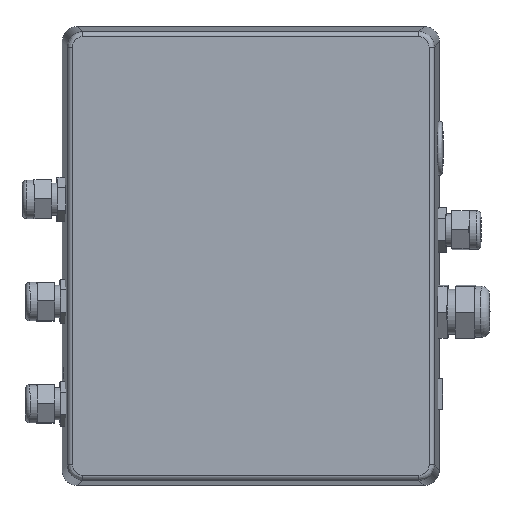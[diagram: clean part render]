
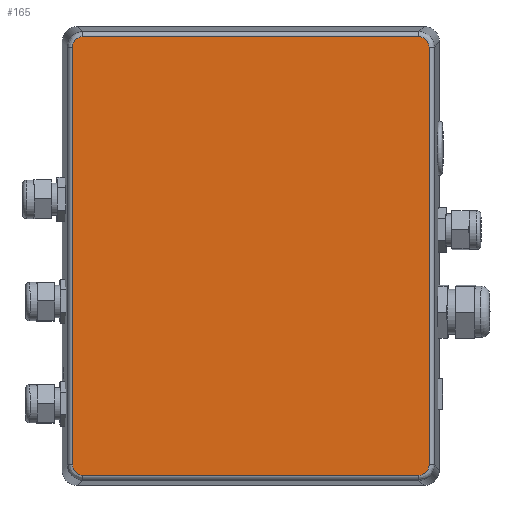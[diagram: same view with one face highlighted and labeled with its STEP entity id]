
A CAD part, front view. The second image highlights one B-rep face of the part: STEP entity #165.
In plain terms, the highlighted planar face has unit normal (0, -1, 0).
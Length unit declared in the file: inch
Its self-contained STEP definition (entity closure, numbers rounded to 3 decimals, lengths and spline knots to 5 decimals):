
#76=CARTESIAN_POINT('',(-3.28169,-9.46272,1.14184));
#77=DIRECTION('',(0.0,1.0,0.0));
#78=DIRECTION('',(0.,0.0,-1.));
#79=AXIS2_PLACEMENT_3D('',#76,#77,#78);
#80=PLANE('',#79);
#81=CARTESIAN_POINT('',(1.08101,-9.46272,6.25445));
#82=VERTEX_POINT('',#81);
#83=CARTESIAN_POINT('',(1.08081,-9.46272,-3.97093));
#84=VERTEX_POINT('',#83);
#85=CARTESIAN_POINT('',(1.08101,-9.46272,6.25445));
#86=DIRECTION('',(0.,0.0,-1.));
#87=VECTOR('',#86,10.22538);
#88=LINE('',#85,#87);
#89=EDGE_CURVE('',#82,#84,#88,.T.);
#90=ORIENTED_EDGE('',*,*,#89,.F.);
#91=CARTESIAN_POINT('',(0.8311,-9.46272,6.50437));
#92=VERTEX_POINT('',#91);
#93=CARTESIAN_POINT('',(1.08101,-9.46272,6.25445));
#94=CARTESIAN_POINT('',(1.08101,-9.46272,6.29184));
#95=CARTESIAN_POINT('',(1.06396,-9.46272,6.36661));
#96=CARTESIAN_POINT('',(0.99226,-9.46272,6.45654));
#97=CARTESIAN_POINT('',(0.9059,-9.46272,6.49811));
#98=CARTESIAN_POINT('',(0.8498,-9.46272,6.50437));
#99=CARTESIAN_POINT('',(0.8311,-9.46272,6.50437));
#100=B_SPLINE_CURVE_WITH_KNOTS('',3,(#93,#94,#95,#96,#97,#98,#99),.UNSPECIFIED.,.F.,.U.,(4,1,1,1,4),(0.0,0.28571,0.57143,0.85714,1.0),.UNSPECIFIED.);
#101=EDGE_CURVE('',#82,#92,#100,.T.);
#102=ORIENTED_EDGE('',*,*,#101,.T.);
#103=CARTESIAN_POINT('',(-7.39428,-9.46272,6.50452));
#104=VERTEX_POINT('',#103);
#105=CARTESIAN_POINT('',(-7.39428,-9.46272,6.50452));
#106=DIRECTION('',(1.,0.0,0.));
#107=VECTOR('',#106,8.22538);
#108=LINE('',#105,#107);
#109=EDGE_CURVE('',#104,#92,#108,.T.);
#110=ORIENTED_EDGE('',*,*,#109,.F.);
#111=CARTESIAN_POINT('',(-7.6442,-9.46272,6.25461));
#112=VERTEX_POINT('',#111);
#113=CARTESIAN_POINT('',(-7.39428,-9.46272,6.50452));
#114=CARTESIAN_POINT('',(-7.43168,-9.46272,6.50452));
#115=CARTESIAN_POINT('',(-7.50645,-9.46272,6.48748));
#116=CARTESIAN_POINT('',(-7.58136,-9.46272,6.42771));
#117=CARTESIAN_POINT('',(-7.62135,-9.46272,6.36397));
#118=CARTESIAN_POINT('',(-7.64,-9.46272,6.31071));
#119=CARTESIAN_POINT('',(-7.6442,-9.46272,6.27331));
#120=CARTESIAN_POINT('',(-7.6442,-9.46272,6.25461));
#121=B_SPLINE_CURVE_WITH_KNOTS('',3,(#113,#114,#115,#116,#117,#118,#119,#120),.UNSPECIFIED.,.F.,.U.,(4,1,1,1,1,4),(0.0,0.28571,0.57143,0.71429,0.85714,1.0),.UNSPECIFIED.);
#122=EDGE_CURVE('',#104,#112,#121,.T.);
#123=ORIENTED_EDGE('',*,*,#122,.T.);
#124=CARTESIAN_POINT('',(-7.6444,-9.46272,-3.97077));
#125=VERTEX_POINT('',#124);
#126=CARTESIAN_POINT('',(-7.6444,-9.46272,-3.97077));
#127=DIRECTION('',(0.,0.0,1.));
#128=VECTOR('',#127,10.22538);
#129=LINE('',#126,#128);
#130=EDGE_CURVE('',#125,#112,#129,.T.);
#131=ORIENTED_EDGE('',*,*,#130,.F.);
#132=CARTESIAN_POINT('',(-7.39449,-9.46272,-4.22069));
#133=VERTEX_POINT('',#132);
#134=CARTESIAN_POINT('',(-7.6444,-9.46272,-3.97077));
#135=CARTESIAN_POINT('',(-7.6444,-9.46272,-4.00816));
#136=CARTESIAN_POINT('',(-7.62735,-9.46272,-4.08293));
#137=CARTESIAN_POINT('',(-7.55564,-9.46272,-4.17286));
#138=CARTESIAN_POINT('',(-7.46929,-9.46272,-4.21443));
#139=CARTESIAN_POINT('',(-7.41318,-9.46272,-4.22069));
#140=CARTESIAN_POINT('',(-7.39449,-9.46272,-4.22069));
#141=B_SPLINE_CURVE_WITH_KNOTS('',3,(#134,#135,#136,#137,#138,#139,#140),.UNSPECIFIED.,.F.,.U.,(4,1,1,1,4),(0.0,0.28571,0.57143,0.85714,1.0),.UNSPECIFIED.);
#142=EDGE_CURVE('',#125,#133,#141,.T.);
#143=ORIENTED_EDGE('',*,*,#142,.T.);
#144=CARTESIAN_POINT('',(0.8309,-9.46272,-4.22084));
#145=VERTEX_POINT('',#144);
#146=CARTESIAN_POINT('',(0.8309,-9.46272,-4.22084));
#147=DIRECTION('',(-1.,0.0,0.));
#148=VECTOR('',#147,8.22538);
#149=LINE('',#146,#148);
#150=EDGE_CURVE('',#145,#133,#149,.T.);
#151=ORIENTED_EDGE('',*,*,#150,.F.);
#152=CARTESIAN_POINT('',(0.8309,-9.46272,-4.22084));
#153=CARTESIAN_POINT('',(0.86829,-9.46272,-4.22085));
#154=CARTESIAN_POINT('',(0.94307,-9.46272,-4.2038));
#155=CARTESIAN_POINT('',(1.01798,-9.46272,-4.14403));
#156=CARTESIAN_POINT('',(1.05796,-9.46272,-4.08029));
#157=CARTESIAN_POINT('',(1.07662,-9.46272,-4.02703));
#158=CARTESIAN_POINT('',(1.08081,-9.46272,-3.98963));
#159=CARTESIAN_POINT('',(1.08081,-9.46272,-3.97093));
#160=B_SPLINE_CURVE_WITH_KNOTS('',3,(#152,#153,#154,#155,#156,#157,#158,#159),.UNSPECIFIED.,.F.,.U.,(4,1,1,1,1,4),(0.0,0.28571,0.57143,0.71429,0.85714,1.0),.UNSPECIFIED.);
#161=EDGE_CURVE('',#145,#84,#160,.T.);
#162=ORIENTED_EDGE('',*,*,#161,.T.);
#163=EDGE_LOOP('',(#90,#102,#110,#123,#131,#143,#151,#162));
#164=FACE_OUTER_BOUND('',#163,.T.);
#165=ADVANCED_FACE('',(#164),#80,.F.);
